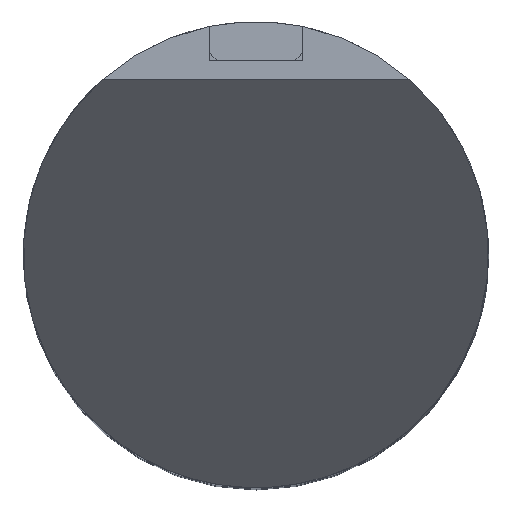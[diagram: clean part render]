
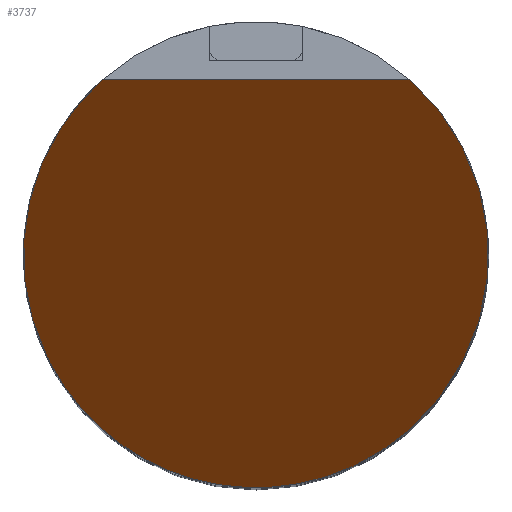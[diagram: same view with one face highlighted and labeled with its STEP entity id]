
A CAD part, top view. The second image highlights one B-rep face of the part: STEP entity #3737.
In plain terms, the highlighted planar face has unit normal (0, -0.707, 0.707) as drawn and (0.707, -0.707, 0) by its records, which use the part's own axes.
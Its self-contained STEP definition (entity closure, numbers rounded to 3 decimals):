
#66=ELLIPSE('',#4427,8.485,6.);
#258=LINE('',#8996,#424);
#424=VECTOR('',#5460,10.);
#1035=FACE_OUTER_BOUND('',#1354,.T.);
#1354=EDGE_LOOP('',(#3374,#3375));
#1923=VERTEX_POINT('',#8993);
#1924=VERTEX_POINT('',#8995);
#2409=EDGE_CURVE('',#1924,#1923,#258,.T.);
#2417=EDGE_CURVE('',#1924,#1923,#66,.T.);
#3374=ORIENTED_EDGE('',*,*,#2409,.T.);
#3375=ORIENTED_EDGE('',*,*,#2417,.F.);
#3511=PLANE('',#4426);
#3737=ADVANCED_FACE('',(#1035),#3511,.F.);
#4426=AXIS2_PLACEMENT_3D('',#9010,#5480,#5481);
#4427=AXIS2_PLACEMENT_3D('',#9011,#5482,#5483);
#5460=DIRECTION('',(0.,0.,-1.));
#5480=DIRECTION('center_axis',(-0.707,0.707,0.));
#5481=DIRECTION('ref_axis',(-0.707,-0.707,0.));
#5482=DIRECTION('center_axis',(-0.707,0.707,0.));
#5483=DIRECTION('ref_axis',(-0.707,-0.707,0.));
#8993=CARTESIAN_POINT('',(-6.645,-20.158,-3.969));
#8995=CARTESIAN_POINT('',(-6.645,-20.158,3.969));
#8996=CARTESIAN_POINT('',(-6.645,-20.158,0.));
#9010=CARTESIAN_POINT('Origin',(5.99,-7.522,0.));
#9011=CARTESIAN_POINT('Origin',(-2.145,-15.658,0.));
